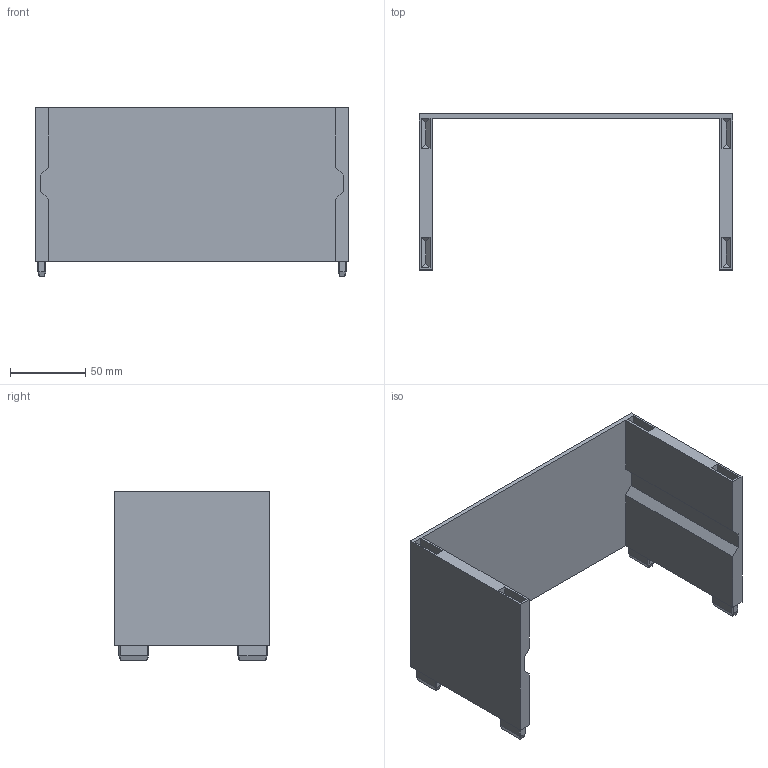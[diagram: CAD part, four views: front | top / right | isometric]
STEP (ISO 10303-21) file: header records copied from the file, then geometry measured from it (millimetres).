
FILE_DESCRIPTION(/* description */ (''),/* implementation_level */ '2;1');
FILE_NAME(/* name */ 'StackDrawerBox2-side2.step',/* time_stamp */ '2024-06-28T20:52:36+02:00',/* author */ (''),/* organization */ (''),/* preprocessor_version */ 'ST-DEVELOPER v20',/* originating_system */ 'Autodesk Translation Framework v13.14.0.145',/* authorisation */ '');
FILE_SCHEMA (('AUTOMOTIVE_DESIGN { 1 0 10303 214 3 1 1 }'));
Length unit declared in the file: millimetre
Products named in the file (2): StackDrawerBox2-base2; Component2
Assembly tree (1 placements, depth 2):
  StackDrawerBox2-base2
    Component2
Bounding box: 208 x 103.3 x 112 mm (x, y, z)
Volume: 224531.8 mm3; surface area: 93440.7 mm2
Topology: 1 solids, 1 shells, 118 faces, 276 edges, 168 vertices
Faces by surface type: plane 118
Entity records: 3296 total; most frequent: CARTESIAN_POINT 565, ORIENTED_EDGE 552, DIRECTION 518, LINE 276, VECTOR 276, EDGE_CURVE 276, VERTEX_POINT 168, EDGE_LOOP 126
